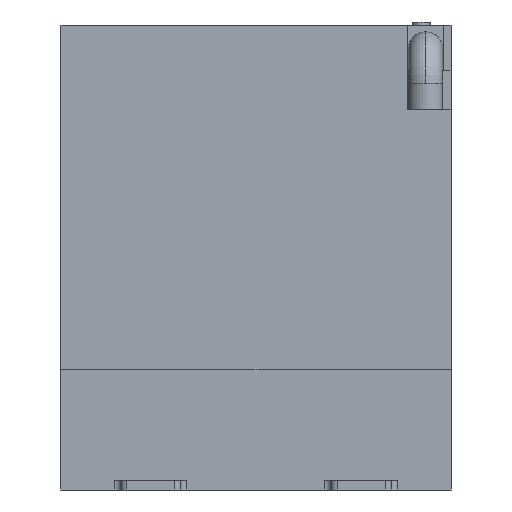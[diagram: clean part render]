
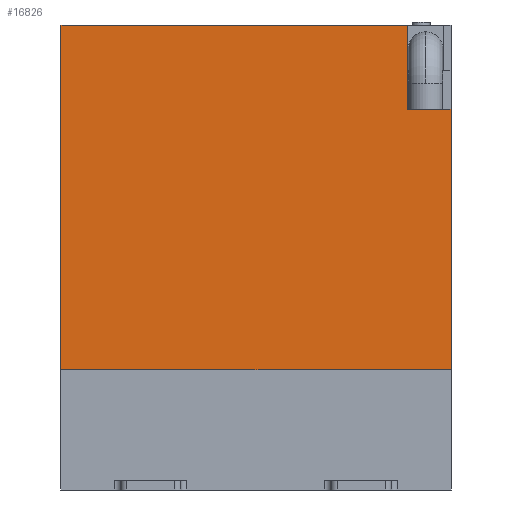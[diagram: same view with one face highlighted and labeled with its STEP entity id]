
A CAD part, left-side view. The second image highlights one B-rep face of the part: STEP entity #16826.
In plain terms, the highlighted planar face has unit normal (-1, 0, 0).
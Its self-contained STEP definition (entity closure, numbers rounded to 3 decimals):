
#12 = DIRECTION ( 'NONE',  ( 0., 0., -1. ) ) ;
#435 = DIRECTION ( 'NONE',  ( 0., 0., -1. ) ) ;
#805 = EDGE_CURVE ( 'NONE', #14728, #8854, #10680, .T. ) ;
#1105 = DIRECTION ( 'NONE',  ( -1., 0., 0. ) ) ;
#1351 = ORIENTED_EDGE ( 'NONE', *, *, #19015, .F. ) ;
#1362 = CARTESIAN_POINT ( 'NONE',  ( -105.212, -297.3, 223.1 ) ) ;
#1753 = VERTEX_POINT ( 'NONE', #8346 ) ;
#2308 = VERTEX_POINT ( 'NONE', #10076 ) ;
#2402 = CARTESIAN_POINT ( 'NONE',  ( -105.212, -282.8, 223.1 ) ) ;
#2866 = CARTESIAN_POINT ( 'NONE',  ( -105.212, -167.3, 251.1 ) ) ;
#2977 = LINE ( 'NONE', #2866, #4460 ) ;
#3410 = LINE ( 'NONE', #10328, #12365 ) ;
#4460 = VECTOR ( 'NONE', #14674, 1000. ) ;
#4544 = PLANE ( 'NONE',  #14047 ) ;
#4998 = CARTESIAN_POINT ( 'NONE',  ( -105.212, -167.3, 251.1 ) ) ;
#5700 = ORIENTED_EDGE ( 'NONE', *, *, #19100, .F. ) ;
#5756 = DIRECTION ( 'NONE',  ( 0., -1., 0. ) ) ;
#8084 = VECTOR ( 'NONE', #12, 1000. ) ;
#8313 = ORIENTED_EDGE ( 'NONE', *, *, #19700, .T. ) ;
#8346 = CARTESIAN_POINT ( 'NONE',  ( -105.212, -297.3, 136.1 ) ) ;
#8854 = VERTEX_POINT ( 'NONE', #1362 ) ;
#9112 = CARTESIAN_POINT ( 'NONE',  ( -105.212, -167.3, 223.1 ) ) ;
#10076 = CARTESIAN_POINT ( 'NONE',  ( -105.212, -282.8, 251.1 ) ) ;
#10121 = LINE ( 'NONE', #18750, #17850 ) ;
#10328 = CARTESIAN_POINT ( 'NONE',  ( -105.212, -297.3, 251.1 ) ) ;
#10680 = LINE ( 'NONE', #9112, #15616 ) ;
#11545 = CARTESIAN_POINT ( 'NONE',  ( -105.212, -167.3, 251.1 ) ) ;
#11806 = DIRECTION ( 'NONE',  ( 0., -1., 0. ) ) ;
#12365 = VECTOR ( 'NONE', #15316, 1000. ) ;
#12430 = EDGE_CURVE ( 'NONE', #20375, #1753, #10121, .T. ) ;
#12920 = DIRECTION ( 'NONE',  ( 0., 0., -1. ) ) ;
#13685 = ORIENTED_EDGE ( 'NONE', *, *, #12430, .T. ) ;
#14047 = AXIS2_PLACEMENT_3D ( 'NONE', #14787, #1105, #12920 ) ;
#14115 = VECTOR ( 'NONE', #435, 1000. ) ;
#14425 = EDGE_LOOP ( 'NONE', ( #17759, #1351, #16092, #8313, #13685, #5700 ) ) ;
#14674 = DIRECTION ( 'NONE',  ( 0., -1., 0. ) ) ;
#14728 = VERTEX_POINT ( 'NONE', #2402 ) ;
#14787 = CARTESIAN_POINT ( 'NONE',  ( -105.212, -167.3, 251.1 ) ) ;
#15235 = LINE ( 'NONE', #4998, #8084 ) ;
#15316 = DIRECTION ( 'NONE',  ( 0., 0., -1. ) ) ;
#15511 = EDGE_CURVE ( 'NONE', #20426, #2308, #2977, .T. ) ;
#15616 = VECTOR ( 'NONE', #5756, 1000. ) ;
#15885 = CARTESIAN_POINT ( 'NONE',  ( -105.212, -282.8, 251.1 ) ) ;
#16092 = ORIENTED_EDGE ( 'NONE', *, *, #15511, .F. ) ;
#16826 = ADVANCED_FACE ( 'NONE', ( #21432 ), #4544, .T. ) ;
#17324 = LINE ( 'NONE', #15885, #14115 ) ;
#17759 = ORIENTED_EDGE ( 'NONE', *, *, #805, .F. ) ;
#17850 = VECTOR ( 'NONE', #11806, 1000. ) ;
#18750 = CARTESIAN_POINT ( 'NONE',  ( -105.212, -167.3, 136.1 ) ) ;
#19015 = EDGE_CURVE ( 'NONE', #2308, #14728, #17324, .T. ) ;
#19100 = EDGE_CURVE ( 'NONE', #8854, #1753, #3410, .T. ) ;
#19700 = EDGE_CURVE ( 'NONE', #20426, #20375, #15235, .T. ) ;
#20375 = VERTEX_POINT ( 'NONE', #21835 ) ;
#20426 = VERTEX_POINT ( 'NONE', #11545 ) ;
#21432 = FACE_OUTER_BOUND ( 'NONE', #14425, .T. ) ;
#21835 = CARTESIAN_POINT ( 'NONE',  ( -105.212, -167.3, 136.1 ) ) ;
